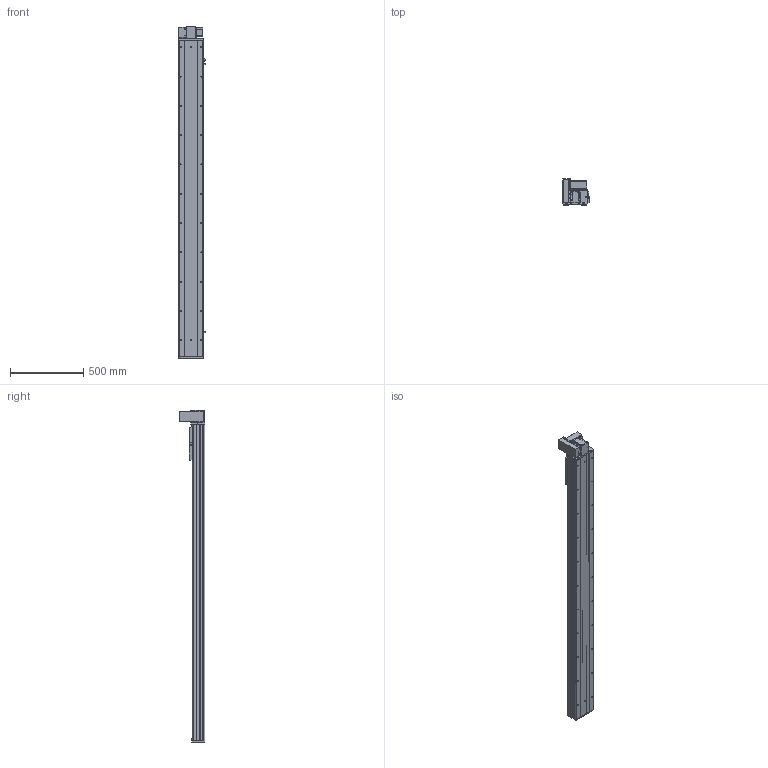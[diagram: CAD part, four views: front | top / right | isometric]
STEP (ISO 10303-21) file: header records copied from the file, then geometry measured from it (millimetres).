
FILE_DESCRIPTION (( 'STEP AP203' ), '1' );
FILE_NAME ('Y170CB-D105-S1850-UL-P400W.STEP', '2020-02-20T02:48:21', ( '微软用户' ), ( '微软中国' ), 'SwSTEP 2.0', 'SolidWorks 2017', '' );
FILE_SCHEMA (( 'CONFIG_CONTROL_DESIGN' ));
Length unit declared in the file: millimetre
Products named in the file (18): 70CB-詩湍--; Y100-135俋离換覜ん--; 70CB-掛极-; san松下电机400不带刹车----; Y170CB-陔俋离換覜結え---; --70CB --喘謫眊楊擘啣-; 70B喘謫眊----; 70CB-耜裔啣-; Y1埴倛裔; B-源倛裔啣; 70C--詩湍揤踡え-; 17B-耜蚾蟀諉啣----; 0B-萇儂楊擘啣; 70CB--耜裔; 00B-俋欶BM--163; 70C-雄赽釱-奻-; Y170CB-D105-S1850-UL-P400W; 0C--雄赽釱俋欶-170
Assembly tree (21 placements, depth 2):
  Y170CB-D105-S1850-UL-P400W
    B-源倛裔啣
    0B-萇儂楊擘啣
    san松下电机400不带刹车----
    70CB-掛极-
    --70CB --喘謫眊楊擘啣-
    70CB-耜裔啣-  x2
    70C--詩湍揤踡え-  x2
    70CB--耜裔
    70C-雄赽釱-奻-
    0C--雄赽釱俋欶-170
    70CB-詩湍--
    Y100-135俋离換覜ん--  x3
    Y170CB-陔俋离換覜結え---
    70B喘謫眊----
    Y1埴倛裔
    17B-耜蚾蟀諉啣----
    00B-俋欶BM--163
Bounding box: 183.5 x 174 x 2266 mm (x, y, z)
Volume: 9886631.9 mm3; surface area: 3562232.8 mm2
Topology: 21 solids, 21 shells, 1039 faces, 2789 edges, 1850 vertices
Faces by surface type: cylinder 553, plane 462, cone 24
Entity records: 33204 total; most frequent: CARTESIAN_POINT 6096, DIRECTION 5402, ORIENTED_EDGE 5060, EDGE_CURVE 2530, AXIS2_PLACEMENT_3D 1988, VERTEX_POINT 1680, VECTOR 1426, LINE 1426
